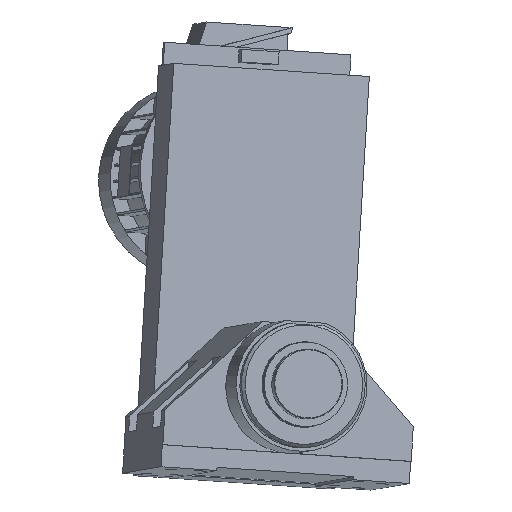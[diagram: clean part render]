
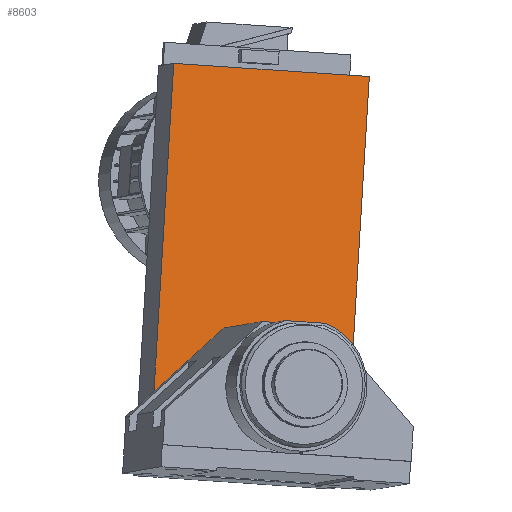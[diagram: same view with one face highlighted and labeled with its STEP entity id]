
A CAD part, front view. The second image highlights one B-rep face of the part: STEP entity #8603.
In plain terms, the highlighted planar face has unit normal (0.178, -0.984, 0.03).
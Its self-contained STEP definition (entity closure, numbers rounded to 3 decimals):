
#8455=CARTESIAN_POINT('',(147.452,246.944,735.524));
#8456=VERTEX_POINT('',#8455);
#8457=CARTESIAN_POINT('',(116.26,225.538,217.072));
#8458=VERTEX_POINT('',#8457);
#8459=CARTESIAN_POINT('',(147.452,246.944,735.524));
#8460=DIRECTION('',(-0.06,-0.041,-0.997));
#8461=VECTOR('',#8460,519.831);
#8462=LINE('',#8459,#8461);
#8463=EDGE_CURVE('',#8456,#8458,#8462,.T.);
#8525=CARTESIAN_POINT('',(-193.158,170.323,237.967));
#8526=VERTEX_POINT('',#8525);
#8533=CARTESIAN_POINT('',(-161.967,191.729,756.419));
#8534=VERTEX_POINT('',#8533);
#8535=CARTESIAN_POINT('',(-193.158,170.323,237.967));
#8536=DIRECTION('',(0.06,0.041,0.997));
#8537=VECTOR('',#8536,519.831);
#8538=LINE('',#8535,#8537);
#8539=EDGE_CURVE('',#8526,#8534,#8538,.T.);
#8557=CARTESIAN_POINT('',(-161.967,191.729,756.419));
#8558=DIRECTION('',(0.982,0.175,-0.066));
#8559=VECTOR('',#8558,315.);
#8560=LINE('',#8557,#8559);
#8561=EDGE_CURVE('',#8534,#8456,#8560,.T.);
#8571=CARTESIAN_POINT('',(-26.758,205.953,421.834));
#8572=DIRECTION('',(0.178,-0.984,0.03));
#8573=DIRECTION('',(0.982,0.175,-0.066));
#8574=AXIS2_PLACEMENT_3D('',#8571,#8572,#8573);
#8575=PLANE('',#8574);
#8576=CARTESIAN_POINT('',(19.36,211.501,330.596));
#8577=VERTEX_POINT('',#8576);
#8578=CARTESIAN_POINT('',(116.26,225.538,217.072));
#8579=DIRECTION('',(-0.646,-0.094,0.757));
#8580=VECTOR('',#8579,149.914);
#8581=LINE('',#8578,#8580);
#8582=EDGE_CURVE('',#8458,#8577,#8581,.T.);
#8583=ORIENTED_EDGE('',*,*,#8582,.F.);
#8584=ORIENTED_EDGE('',*,*,#8463,.F.);
#8585=ORIENTED_EDGE('',*,*,#8561,.F.);
#8586=ORIENTED_EDGE('',*,*,#8539,.F.);
#8587=CARTESIAN_POINT('',(-83.437,193.158,337.538));
#8588=VERTEX_POINT('',#8587);
#8589=CARTESIAN_POINT('',(-83.437,193.158,337.538));
#8590=DIRECTION('',(-0.732,-0.152,-0.664));
#8591=VECTOR('',#8590,149.914);
#8592=LINE('',#8589,#8591);
#8593=EDGE_CURVE('',#8588,#8526,#8592,.T.);
#8594=ORIENTED_EDGE('',*,*,#8593,.F.);
#8595=CARTESIAN_POINT('',(19.36,211.501,330.596));
#8596=DIRECTION('',(-0.982,-0.175,0.066));
#8597=VECTOR('',#8596,104.652);
#8598=LINE('',#8595,#8597);
#8599=EDGE_CURVE('',#8577,#8588,#8598,.T.);
#8600=ORIENTED_EDGE('',*,*,#8599,.F.);
#8601=EDGE_LOOP('',(#8583,#8584,#8585,#8586,#8594,#8600));
#8602=FACE_OUTER_BOUND('',#8601,.T.);
#8603=ADVANCED_FACE('',(#8602),#8575,.T.);
